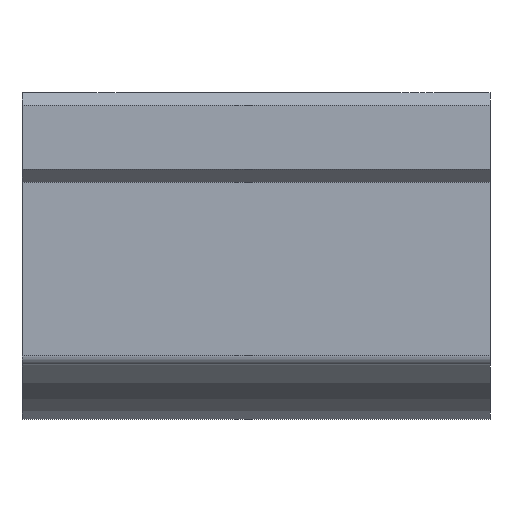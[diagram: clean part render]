
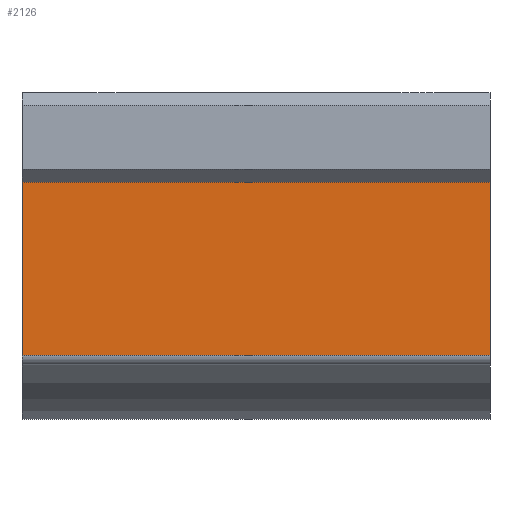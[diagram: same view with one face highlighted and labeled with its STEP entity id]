
A CAD part, front view. The second image highlights one B-rep face of the part: STEP entity #2126.
In plain terms, the highlighted planar face has unit normal (0, -1, 0).
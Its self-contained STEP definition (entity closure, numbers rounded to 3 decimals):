
#1855=CARTESIAN_POINT('',(73.0,-36.,12.));
#1856=VERTEX_POINT('',#1855);
#1863=CARTESIAN_POINT('',(73.0,-36.0,-15.));
#1864=VERTEX_POINT('',#1863);
#1865=CARTESIAN_POINT('',(73.0,-36.0,-15.));
#1866=DIRECTION('',(0.0,0.0,1.0));
#1867=VECTOR('',#1866,27.);
#1868=LINE('',#1865,#1867);
#1869=EDGE_CURVE('',#1864,#1856,#1868,.T.);
#1933=CARTESIAN_POINT('',(0.0,-36.0,-15.));
#1934=VERTEX_POINT('',#1933);
#1935=CARTESIAN_POINT('',(73.0,-36.0,-15.));
#1936=DIRECTION('',(-1.0,0.0,0.0));
#1937=VECTOR('',#1936,73.0);
#1938=LINE('',#1935,#1937);
#1939=EDGE_CURVE('',#1864,#1934,#1938,.T.);
#1999=CARTESIAN_POINT('',(0.0,-36.,12.));
#2000=VERTEX_POINT('',#1999);
#2001=CARTESIAN_POINT('',(0.0,-36.,12.));
#2002=DIRECTION('',(0.0,0.0,-1.0));
#2003=VECTOR('',#2002,27.);
#2004=LINE('',#2001,#2003);
#2005=EDGE_CURVE('',#2000,#1934,#2004,.T.);
#2110=CARTESIAN_POINT('',(0.0,-36.0,-16.5));
#2111=DIRECTION('',(0.0,-1.0,0.0));
#2112=DIRECTION('',(0.0,0.0,-1.0));
#2113=AXIS2_PLACEMENT_3D('',#2110,#2111,#2112);
#2114=PLANE('',#2113);
#2115=ORIENTED_EDGE('',*,*,#1939,.F.);
#2116=ORIENTED_EDGE('',*,*,#1869,.T.);
#2117=CARTESIAN_POINT('',(0.0,-36.,12.));
#2118=DIRECTION('',(1.0,0.0,0.0));
#2119=VECTOR('',#2118,73.0);
#2120=LINE('',#2117,#2119);
#2121=EDGE_CURVE('',#2000,#1856,#2120,.T.);
#2122=ORIENTED_EDGE('',*,*,#2121,.F.);
#2123=ORIENTED_EDGE('',*,*,#2005,.T.);
#2124=EDGE_LOOP('',(#2115,#2116,#2122,#2123));
#2125=FACE_OUTER_BOUND('',#2124,.T.);
#2126=ADVANCED_FACE('',(#2125),#2114,.T.);
